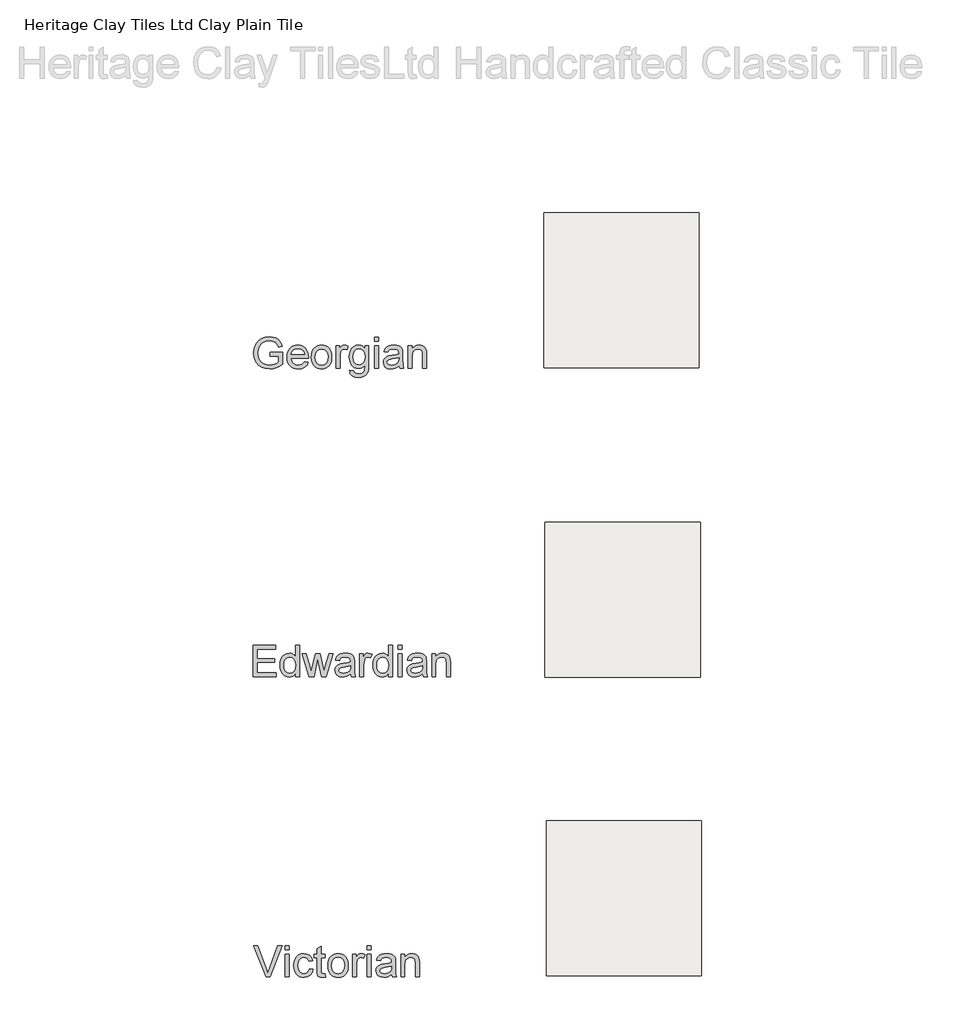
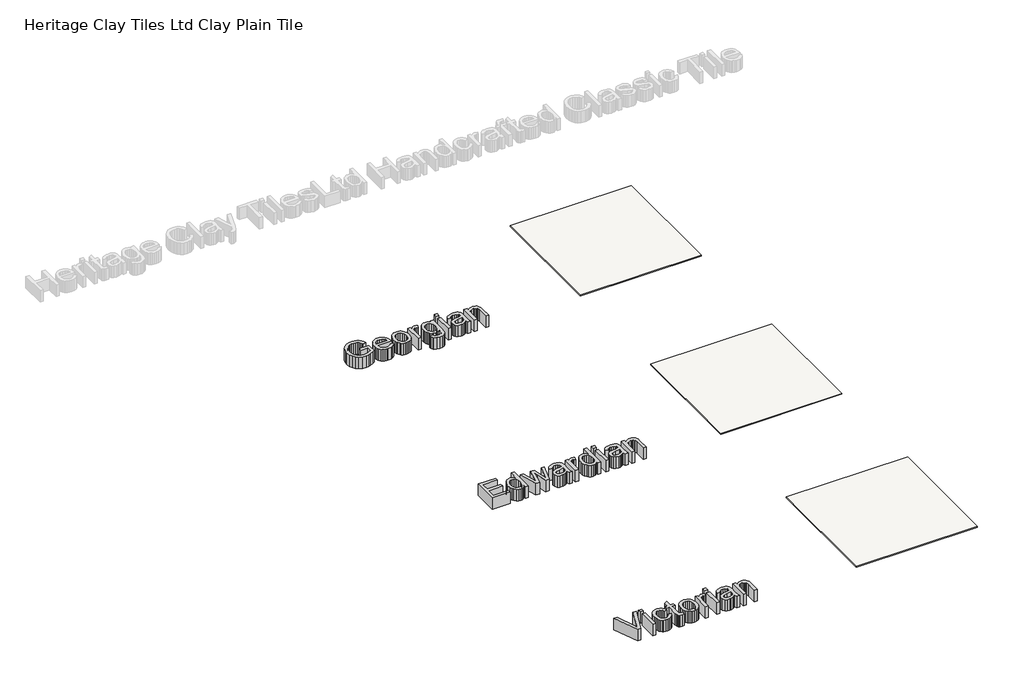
# One storey, part 1 of 3: 3 coverings, 3 proxies.
"""IFC4 building model written with IfcOpenShell, lengths in millimetres."""

from ifc_helpers import new_model, si_unit, frame, origin, place, context, project, spatial, polyline, outline, extrude, element, save

model = new_model("IFC4")

# Units and contexts
model_context = context("Model", 3, world=origin())
ifc_project = project(units=[si_unit("LENGTHUNIT", "METRE", prefix="MILLI")], contexts=[model_context])

# Site, building, storey
site = spatial("IfcSite", under=ifc_project)
building = spatial("IfcBuilding", under=site)
storey = spatial("IfcBuildingStorey", under=building, Name="Heritage Clay Tiles Ltd Clay Plain Tile", Elevation=3000.0)

# Proxies
placement = place(None, origin())
element("IfcBuildingElementProxy", 1, Name="600mm Arial", ObjectType="600mm Arial", at=placement, inside=storey, context=model_context, shape_type="SweptSolid", body=[
    extrude(outline(polyline([(-13653.5462079, -692.2859032), (-13653.5462079, -390.9169728), (-13436.9372892, -390.9169728), (-13436.9372892, -428.5880891), (-13615.8750916, -428.5880891), (-13615.8750916, -518.0569903), (-13446.3550683, -518.0569903), (-13446.3550683, -555.7281066), (-13615.8750916, -555.7281066), (-13615.8750916, -654.6147869), (-13432.2283996, -654.6147869), (-13432.2283996, -692.2859032), (-13653.5462079, -692.2859032)])), frame((0.0, 0.0, 3000.0), z_axis=(0.0, 0.0, 1.0), x_axis=(1.0, 0.0, 0.0)), (0.0, 0.0, 1.0), 150.0),
    extrude(outline(polyline([(-13243.8728181, -692.2859032), (-13243.8728181, -656.7485025), (-13255.1438027, -674.3562545), (-13268.7968233, -686.9332202), (-13284.8318798, -694.4793996), (-13303.2489721, -696.9947927), (-13327.6027602, -693.352761), (-13349.8964091, -682.4266657), (-13368.7687555, -664.9798621), (-13382.8586359, -641.7757053), (-13391.6326215, -613.7522943), (-13394.5572833, -581.8477283), (-13391.8625477, -550.3386354), (-13383.7783409, -521.882963), (-13370.3138599, -498.099392), (-13351.4783017, -480.6066032), (-13328.6972092, -469.8460548), (-13303.3961249, -466.2592054), (-13284.965237, -468.8251823), (-13268.6680646, -476.523113), (-13254.8540957, -488.322928), (-13243.8728181, -503.1945577), (-13243.8728181, -390.9169728), (-13206.2017018, -390.9169728), (-13206.2017018, -692.2859032), (-13243.8728181, -692.2859032)]), holes=[polyline([(-13356.886167, -581.7005755), (-13352.63713, -615.7756453), (-13339.8900189, -640.0098717), (-13321.3671604, -654.4952252), (-13299.7908814, -659.3236764), (-13278.2237994, -654.7159544), (-13260.1699905, -640.8927885), (-13247.9471112, -617.5966611), (-13243.8728181, -584.570055), (-13248.0206876, -548.4624372), (-13260.4642961, -523.4280674), (-13278.9779575, -508.8047581), (-13301.3359858, -503.9303217), (-13323.132994, -508.6116201), (-13340.9936648, -522.6555152), (-13352.9130415, -546.7793771), (-13356.886167, -581.7005755)])]), frame((0.0, 0.0, 3000.0), z_axis=(0.0, 0.0, 1.0), x_axis=(1.0, 0.0, 0.0)), (0.0, 0.0, 1.0), 150.0),
    extrude(outline(polyline([(-13112.9804042, -692.2859032), (-13180.3028093, -470.9680949), (-13141.1601651, -470.9680949), (-13102.974014, -600.0946752), (-13091.5696721, -646.2270774), (-13082.2254694, -601.7869324), (-13051.8384166, -470.9680949), (-13006.9568132, -470.9680949), (-12976.7169132, -601.4190504), (-12968.4027801, -641.6653407), (-12956.4834035, -599.2117584), (-12918.223676, -470.9680949), (-12878.9338789, -470.9680949), (-12946.7713188, -692.2859032), (-12992.3151098, -692.2859032), (-13021.2306346, -562.4971353), (-13029.6183441, -522.0301158), (-13066.9215784, -692.2859032), (-13112.9804042, -692.2859032)])), frame((0.0, 0.0, 3000.0), z_axis=(0.0, 0.0, 1.0), x_axis=(1.0, 0.0, 0.0)), (0.0, 0.0, 1.0), 150.0),
    extrude(outline(polyline([(-12711.7683003, -664.032566), (-12729.7669269, -679.4652157), (-12748.2989824, -689.5635764), (-12767.7875311, -695.1369887), (-12788.6556373, -696.9947927), (-12820.137139, -692.5250265), (-12843.35969, -679.1157278), (-12857.6794966, -658.7534593), (-12862.4527655, -633.424784), (-12860.6501437, -617.8081933), (-12855.2422784, -603.6263424), (-12846.9005542, -591.4862365), (-12836.2963557, -581.994881), (-12809.9192166, -569.634046), (-12777.3248718, -563.9686633), (-12738.8076269, -558.008975), (-12711.9890295, -551.0192171), (-12711.7683003, -542.6315076), (-12714.3618684, -525.8193004), (-12722.1425726, -514.8196287), (-12739.5433909, -506.6526484), (-12763.7868144, -503.9303217), (-12786.2276161, -505.7421405), (-12801.8993891, -511.177597), (-12812.5863611, -521.2299725), (-12820.0727597, -536.8925484), (-12857.743876, -532.1836589), (-12851.2047735, -511.5822672), (-12841.4467036, -495.3954594), (-12827.5591583, -483.0162302), (-12808.6316296, -473.8375745), (-12785.4826551, -468.1537976), (-12758.9307721, -466.2592054), (-12733.464141, -467.9330684), (-12713.2766165, -472.9546577), (-12698.0554989, -480.5054356), (-12687.4880886, -489.7668649), (-12680.4799366, -501.217192), (-12675.936594, -515.3346635), (-12674.097184, -548.2968903), (-12674.097184, -595.1650565), (-12672.1841976, -660.6112634), (-12664.6794049, -692.2859032), (-12702.3505212, -692.2859032), (-12711.7683003, -664.032566)]), holes=[polyline([(-12711.7683003, -588.6903334), (-12772.5424059, -600.241828), (-12804.9528097, -606.3486691), (-12819.6313013, -616.281483), (-12824.7816492, -630.7760336), (-12821.976549, -641.9780404), (-12813.5612484, -651.1566961), (-12799.7196883, -657.2819314), (-12780.6358098, -659.3236764), (-12760.4023001, -657.0703992), (-12742.5232351, -650.3105676), (-12728.0286845, -640.3501625), (-12717.9487178, -628.4951652), (-12713.4789516, -616.281483), (-12711.9890295, -599.3589112), (-12711.7683003, -588.6903334)])]), frame((0.0, 0.0, 3000.0), z_axis=(0.0, 0.0, 1.0), x_axis=(1.0, 0.0, 0.0)), (0.0, 0.0, 1.0), 150.0),
    extrude(outline(polyline([(-12622.2993991, -692.2859032), (-12622.2993991, -470.9680949), (-12589.3371723, -470.9680949), (-12589.3371723, -503.7095925), (-12577.1602783, -484.7268815), (-12565.9398774, -473.5432689), (-12554.6826884, -468.0802212), (-12542.3954297, -466.2592054), (-12523.633448, -469.1654731), (-12504.5771606, -477.8842764), (-12517.1587248, -511.6558436), (-12530.4024767, -505.8617021), (-12543.6462285, -503.9303217), (-12554.8942205, -505.7881257), (-12564.946596, -511.361538), (-12573.0675911, -520.2274941), (-12578.5214416, -531.9629297), (-12583.1015725, -553.0057798), (-12584.6282828, -575.9616163), (-12584.6282828, -692.2859032), (-12622.2993991, -692.2859032)])), frame((0.0, 0.0, 3000.0), z_axis=(0.0, 0.0, 1.0), x_axis=(1.0, 0.0, 0.0)), (0.0, 0.0, 1.0), 150.0),
    extrude(outline(polyline([(-12344.4749163, -692.2859032), (-12344.4749163, -656.7485025), (-12355.7459009, -674.3562545), (-12369.3989215, -686.9332202), (-12385.4339779, -694.4793996), (-12403.8510703, -696.9947927), (-12428.2048584, -693.352761), (-12450.4985073, -682.4266657), (-12469.3708537, -664.9798621), (-12483.4607341, -641.7757053), (-12492.2347197, -613.7522943), (-12495.1593815, -581.8477283), (-12492.4646459, -550.3386354), (-12484.3804391, -521.882963), (-12470.915958, -498.099392), (-12452.0803999, -480.6066032), (-12429.2993073, -469.8460548), (-12403.9982231, -466.2592054), (-12385.5673352, -468.8251823), (-12369.2701628, -476.523113), (-12355.4561939, -488.322928), (-12344.4749163, -503.1945577), (-12344.4749163, -390.9169728), (-12306.8038, -390.9169728), (-12306.8038, -692.2859032), (-12344.4749163, -692.2859032)]), holes=[polyline([(-12457.4882652, -581.7005755), (-12453.2392282, -615.7756453), (-12440.492117, -640.0098717), (-12421.9692586, -654.4952252), (-12400.3929796, -659.3236764), (-12378.8258976, -654.7159544), (-12360.7720887, -640.8927885), (-12348.5492094, -617.5966611), (-12344.4749163, -584.570055), (-12348.6227858, -548.4624372), (-12361.0663943, -523.4280674), (-12379.5800557, -508.8047581), (-12401.938084, -503.9303217), (-12423.7350922, -508.6116201), (-12441.595763, -522.6555152), (-12453.5151397, -546.7793771), (-12457.4882652, -581.7005755)])]), frame((0.0, 0.0, 3000.0), z_axis=(0.0, 0.0, 1.0), x_axis=(1.0, 0.0, 0.0)), (0.0, 0.0, 1.0), 150.0),
    extrude(outline(polyline([(-12250.2971255, -692.2859032), (-12250.2971255, -470.9680949), (-12212.6260092, -470.9680949), (-12212.6260092, -692.2859032), (-12250.2971255, -692.2859032)])), frame((0.0, 0.0, 3000.0), z_axis=(0.0, 0.0, 1.0), x_axis=(1.0, 0.0, 0.0)), (0.0, 0.0, 1.0), 150.0),
    extrude(outline(polyline([(-12250.2971255, -428.5880891), (-12250.2971255, -390.9169728), (-12212.6260092, -390.9169728), (-12212.6260092, -428.5880891), (-12250.2971255, -428.5880891)])), frame((0.0, 0.0, 3000.0), z_axis=(0.0, 0.0, 1.0), x_axis=(1.0, 0.0, 0.0)), (0.0, 0.0, 1.0), 150.0),
    extrude(outline(polyline([(-12014.8526486, -664.032566), (-12032.8512752, -679.4652157), (-12051.3833308, -689.5635764), (-12070.8718794, -695.1369887), (-12091.7399856, -696.9947927), (-12123.2214874, -692.5250265), (-12146.4440383, -679.1157278), (-12160.763845, -658.7534593), (-12165.5371139, -633.424784), (-12163.7344921, -617.8081933), (-12158.3266267, -603.6263424), (-12149.9849025, -591.4862365), (-12139.380704, -581.994881), (-12113.0035649, -569.634046), (-12080.4092202, -563.9686633), (-12041.8919753, -558.008975), (-12015.0733778, -551.0192171), (-12014.8526486, -542.6315076), (-12017.4462167, -525.8193004), (-12025.2269209, -514.8196287), (-12042.6277393, -506.6526484), (-12066.8711627, -503.9303217), (-12089.3119645, -505.7421405), (-12104.9837374, -511.177597), (-12115.6707094, -521.2299725), (-12123.157108, -536.8925484), (-12160.8282243, -532.1836589), (-12154.2891219, -511.5822672), (-12144.5310519, -495.3954594), (-12130.6435066, -483.0162302), (-12111.715978, -473.8375745), (-12088.5670034, -468.1537976), (-12062.0151204, -466.2592054), (-12036.5484893, -467.9330684), (-12016.3609648, -472.9546577), (-12001.1398473, -480.5054356), (-11990.5724369, -489.7668649), (-11983.5642849, -501.217192), (-11979.0209423, -515.3346635), (-11977.1815323, -548.2968903), (-11977.1815323, -595.1650565), (-11975.2685459, -660.6112634), (-11967.7637532, -692.2859032), (-12005.4348696, -692.2859032), (-12014.8526486, -664.032566)]), holes=[polyline([(-12014.8526486, -588.6903334), (-12075.6267542, -600.241828), (-12108.037158, -606.3486691), (-12122.7156496, -616.281483), (-12127.8659975, -630.7760336), (-12125.0608973, -641.9780404), (-12116.6455967, -651.1566961), (-12102.8040366, -657.2819314), (-12083.7201581, -659.3236764), (-12063.4866484, -657.0703992), (-12045.6075834, -650.3105676), (-12031.1130328, -640.3501625), (-12021.0330661, -628.4951652), (-12016.5632999, -616.281483), (-12015.0733778, -599.3589112), (-12014.8526486, -588.6903334)])]), frame((0.0, 0.0, 3000.0), z_axis=(0.0, 0.0, 1.0), x_axis=(1.0, 0.0, 0.0)), (0.0, 0.0, 1.0), 150.0),
    extrude(outline(polyline([(-11925.3837474, -692.2859032), (-11925.3837474, -470.9680949), (-11887.7126311, -470.9680949), (-11887.7126311, -501.8701825), (-11874.6252291, -486.29038), (-11858.9074709, -475.1619497), (-11840.5593564, -468.4848914), (-11819.5808856, -466.2592054), (-11801.0120419, -468.0526301), (-11784.0066967, -473.4329043), (-11769.8248457, -481.7286433), (-11759.726485, -492.2684624), (-11748.4325077, -519.9699767), (-11746.4459449, -556.3902942), (-11746.4459449, -692.2859032), (-11784.1170613, -692.2859032), (-11784.1170613, -561.4670657), (-11788.4580688, -528.136957), (-11794.4637424, -518.2133401), (-11803.798748, -510.5154094), (-11815.7641099, -505.5765936), (-11829.6608523, -503.9303217), (-11851.7245749, -507.6275357), (-11870.5325419, -518.7191779), (-11878.0488309, -527.7736735), (-11883.4176088, -540.1483041), (-11887.7126311, -574.8579703), (-11887.7126311, -692.2859032), (-11925.3837474, -692.2859032)])), frame((0.0, 0.0, 3000.0), z_axis=(0.0, 0.0, 1.0), x_axis=(1.0, 0.0, 0.0)), (0.0, 0.0, 1.0), 150.0),
])
element("IfcBuildingElementProxy", 2, Name="600mm Arial", ObjectType="600mm Arial", at=placement, inside=storey, context=model_context, shape_type="SweptSolid", body=[
    extrude(outline(polyline([(-13529.7897407, -3597.4153802), (-13649.7192711, -3296.0464497), (-13609.3994045, -3296.0464497), (-13529.1275531, -3513.1704033), (-13512.8671689, -3562.0987086), (-13496.8275139, -3513.1704033), (-13416.3349334, -3296.0464497), (-13376.0150667, -3296.0464497), (-13490.8678256, -3597.4153802), (-13529.7897407, -3597.4153802)])), frame((0.0, 0.0, 3000.0), z_axis=(0.0, 0.0, 1.0), x_axis=(1.0, 0.0, 0.0)), (0.0, 0.0, 1.0), 150.0),
    extrude(outline(polyline([(-13345.7015903, -3597.4153802), (-13345.7015903, -3376.0975719), (-13308.030474, -3376.0975719), (-13308.030474, -3597.4153802), (-13345.7015903, -3597.4153802)])), frame((0.0, 0.0, 3000.0), z_axis=(0.0, 0.0, 1.0), x_axis=(1.0, 0.0, 0.0)), (0.0, 0.0, 1.0), 150.0),
    extrude(outline(polyline([(-13345.7015903, -3333.717566), (-13345.7015903, -3296.0464497), (-13308.030474, -3296.0464497), (-13308.030474, -3333.717566), (-13345.7015903, -3333.717566)])), frame((0.0, 0.0, 3000.0), z_axis=(0.0, 0.0, 1.0), x_axis=(1.0, 0.0, 0.0)), (0.0, 0.0, 1.0), 150.0),
    extrude(outline(polyline([(-13110.2571134, -3517.364258), (-13072.5859971, -3522.0731476), (-13083.0890281, -3555.5780003), (-13102.8258971, -3580.8974786), (-13129.9388001, -3596.8175719), (-13162.5699331, -3602.1242697), (-13183.697856, -3600.2733634), (-13202.6414794, -3594.7206446), (-13219.4008036, -3585.4661131), (-13233.9758284, -3572.5097691), (-13245.7733441, -3556.0953343), (-13254.2001411, -3536.4665306), (-13259.2562192, -3513.623358), (-13260.9415786, -3487.5658164), (-13258.062902, -3454.0425696), (-13249.4268722, -3424.989089), (-13234.8955334, -3401.5274148), (-13214.3309298, -3384.779587), (-13189.7288214, -3374.7364085), (-13163.0849679, -3371.3886823), (-13131.2539783, -3375.9872073), (-13105.8057413, -3389.7827821), (-13087.5495973, -3412.0396428), (-13077.2948866, -3442.0220254), (-13114.9660029, -3446.730915), (-13121.799411, -3430.2957868), (-13132.4403977, -3418.5143659), (-13146.3003519, -3411.4234405), (-13162.7906623, -3409.0597987), (-13187.1352533, -3413.7135059), (-13206.4582551, -3427.6746276), (-13219.0674105, -3451.6973219), (-13223.2704623, -3486.5357468), (-13219.159381, -3521.8432213), (-13206.8261371, -3545.9486891), (-13187.8526232, -3559.8270373), (-13163.8207319, -3564.4531534), (-13144.3137891, -3561.5652798), (-13128.3201194, -3552.9016588), (-13116.6858513, -3538.2415613), (-13110.2571134, -3517.364258)])), frame((0.0, 0.0, 3000.0), z_axis=(0.0, 0.0, 1.0), x_axis=(1.0, 0.0, 0.0)), (0.0, 0.0, 1.0), 150.0),
    extrude(outline(polyline([(-12959.5726482, -3565.9982578), (-12954.8637586, -3598.5190262), (-12983.0435195, -3602.1242697), (-13001.1249195, -3600.5607712), (-13014.6077947, -3595.8702758), (-13024.1359383, -3588.6413946), (-13030.3531441, -3579.4627388), (-13033.7744466, -3563.6989953), (-13034.9148808, -3536.714851), (-13034.9148808, -3413.7686882), (-13063.168218, -3413.7686882), (-13063.168218, -3376.0975719), (-13034.9148808, -3376.0975719), (-13034.9148808, -3322.3132242), (-12997.2437645, -3300.1667281), (-12997.2437645, -3376.0975719), (-12959.5726482, -3376.0975719), (-12959.5726482, -3413.7686882), (-12997.2437645, -3413.7686882), (-12997.2437645, -3535.611205), (-12995.2572017, -3555.0353743), (-12988.8192668, -3561.9147676), (-12975.9801852, -3564.4531534), (-12959.5726482, -3565.9982578)])), frame((0.0, 0.0, 3000.0), z_axis=(0.0, 0.0, 1.0), x_axis=(1.0, 0.0, 0.0)), (0.0, 0.0, 1.0), 150.0),
    extrude(outline(polyline([(-12931.319311, -3486.756476), (-12929.2821644, -3458.0938701), (-12923.1707248, -3433.3951926), (-12912.984992, -3412.6604437), (-12898.7249662, -3395.8896232), (-12884.3683713, -3385.1704616), (-12868.5218544, -3377.5139176), (-12851.1854154, -3372.9199911), (-12832.3590543, -3371.3886823), (-12811.5760208, -3373.2533842), (-12792.7841486, -3378.8474898), (-12775.9834378, -3388.1709991), (-12761.1738882, -3401.2239122), (-12749.0866654, -3417.5647705), (-12740.4529348, -3436.7521158), (-12735.2726965, -3458.7859481), (-12733.5459503, -3483.6662673), (-12736.5993709, -3521.7236597), (-12745.7596326, -3550.6943668), (-12760.7600209, -3572.3902075), (-12781.3338215, -3588.6230005), (-12805.770383, -3598.7489524), (-12832.3590543, -3602.1242697), (-12853.4455904, -3600.2664656), (-12872.4122065, -3594.6930534), (-12889.2589026, -3585.404033), (-12903.9856787, -3572.3994045), (-12915.9441428, -3555.899897), (-12924.4859029, -3536.1262398), (-12929.6109589, -3513.0784328), (-12931.319311, -3486.756476)]), holes=[polyline([(-12893.6481946, -3486.6828996), (-12889.288793, -3520.7763635), (-12876.2105881, -3545.0657723), (-12856.5289013, -3559.6063081), (-12832.3590543, -3564.4531534), (-12808.2995718, -3559.578717), (-12788.6546732, -3544.9554077), (-12775.5764683, -3520.3441022), (-12771.2170667, -3485.5056772), (-12775.6040594, -3452.4054947), (-12788.7650378, -3428.4471798), (-12808.4375275, -3413.9066439), (-12832.3590543, -3409.0597987), (-12856.5289013, -3413.8882498), (-12876.2105881, -3428.3736034), (-12889.288793, -3452.6078298), (-12893.6481946, -3486.6828996)])]), frame((0.0, 0.0, 3000.0), z_axis=(0.0, 0.0, 1.0), x_axis=(1.0, 0.0, 0.0)), (0.0, 0.0, 1.0), 150.0),
    extrude(outline(polyline([(-12691.1659445, -3597.4153802), (-12691.1659445, -3376.0975719), (-12658.2037177, -3376.0975719), (-12658.2037177, -3408.8390695), (-12646.0268237, -3389.8563585), (-12634.8064228, -3378.6727458), (-12623.5492338, -3373.2096982), (-12611.2619751, -3371.3886823), (-12592.4999934, -3374.2949501), (-12573.443706, -3383.0137534), (-12586.0252703, -3416.7853205), (-12599.2690221, -3410.9911791), (-12612.5127739, -3409.0597987), (-12623.7607659, -3410.9176027), (-12633.8131415, -3416.491015), (-12641.9341365, -3425.356971), (-12647.3879871, -3437.0924067), (-12651.9681179, -3458.1352568), (-12653.4948282, -3481.0910933), (-12653.4948282, -3597.4153802), (-12691.1659445, -3597.4153802)])), frame((0.0, 0.0, 3000.0), z_axis=(0.0, 0.0, 1.0), x_axis=(1.0, 0.0, 0.0)), (0.0, 0.0, 1.0), 150.0),
    extrude(outline(polyline([(-12549.8992584, -3333.717566), (-12549.8992584, -3296.0464497), (-12512.228142, -3296.0464497), (-12512.228142, -3333.717566), (-12549.8992584, -3333.717566)])), frame((0.0, 0.0, 3000.0), z_axis=(0.0, 0.0, 1.0), x_axis=(1.0, 0.0, 0.0)), (0.0, 0.0, 1.0), 150.0),
    extrude(outline(polyline([(-12549.8992584, -3597.4153802), (-12549.8992584, -3376.0975719), (-12512.228142, -3376.0975719), (-12512.228142, -3597.4153802), (-12549.8992584, -3597.4153802)])), frame((0.0, 0.0, 3000.0), z_axis=(0.0, 0.0, 1.0), x_axis=(1.0, 0.0, 0.0)), (0.0, 0.0, 1.0), 150.0),
    extrude(outline(polyline([(-12314.4547814, -3569.162043), (-12332.4534081, -3584.5946926), (-12350.9854636, -3594.6930534), (-12370.4740123, -3600.2664656), (-12391.3421184, -3602.1242697), (-12422.8236202, -3597.6545035), (-12446.0461711, -3584.2452048), (-12460.3659778, -3563.8829363), (-12465.1392467, -3538.554261), (-12463.3366249, -3522.9376703), (-12457.9287596, -3508.7558193), (-12449.5870353, -3496.6157135), (-12438.9828368, -3487.124358), (-12412.6056978, -3474.763523), (-12380.011353, -3469.0981403), (-12341.4941081, -3463.1384519), (-12314.6755106, -3456.148694), (-12314.4547814, -3447.7609845), (-12317.0483495, -3430.9487774), (-12324.8290537, -3419.9491057), (-12342.2298721, -3411.7821254), (-12366.4732956, -3409.0597987), (-12388.9140973, -3410.8716175), (-12404.5858703, -3416.307074), (-12415.2728422, -3426.3594495), (-12422.7592408, -3442.0220254), (-12460.4303571, -3437.3131359), (-12453.8912547, -3416.7117442), (-12444.1331847, -3400.5249364), (-12430.2456394, -3388.1457072), (-12411.3181108, -3378.9670514), (-12388.1691362, -3373.2832746), (-12361.6172532, -3371.3886823), (-12336.1506221, -3373.0625454), (-12315.9630976, -3378.0841347), (-12300.7419801, -3385.6349126), (-12290.1745698, -3394.8963418), (-12283.1664178, -3406.3466689), (-12278.6230751, -3420.4641405), (-12276.7836651, -3453.4263673), (-12276.7836651, -3500.2945335), (-12274.8706788, -3565.7407404), (-12267.3658861, -3597.4153802), (-12305.0370024, -3597.4153802), (-12314.4547814, -3569.162043)]), holes=[polyline([(-12314.4547814, -3493.8198103), (-12375.228887, -3505.371305), (-12407.6392908, -3511.4781461), (-12422.3177824, -3521.41096), (-12427.4681304, -3535.9055106), (-12424.6630301, -3547.1075173), (-12416.2477295, -3556.2861731), (-12402.4061694, -3562.4114083), (-12383.3222909, -3564.4531534), (-12363.0887812, -3562.1998762), (-12345.2097162, -3555.4400445), (-12330.7151656, -3545.4796395), (-12320.635199, -3533.6246422), (-12316.1654327, -3521.41096), (-12314.6755106, -3504.4883882), (-12314.4547814, -3493.8198103)])]), frame((0.0, 0.0, 3000.0), z_axis=(0.0, 0.0, 1.0), x_axis=(1.0, 0.0, 0.0)), (0.0, 0.0, 1.0), 150.0),
    extrude(outline(polyline([(-12224.9858802, -3597.4153802), (-12224.9858802, -3376.0975719), (-12187.3147639, -3376.0975719), (-12187.3147639, -3406.9996595), (-12174.2273619, -3391.419857), (-12158.5096037, -3380.2914266), (-12140.1614892, -3373.6143684), (-12119.1830184, -3371.3886823), (-12100.6141747, -3373.1821071), (-12083.6088295, -3378.5623813), (-12069.4269786, -3386.8581202), (-12059.3286178, -3397.3979394), (-12048.0346405, -3425.0994536), (-12046.0480778, -3461.5197712), (-12046.0480778, -3597.4153802), (-12083.7191941, -3597.4153802), (-12083.7191941, -3466.5965427), (-12088.0602016, -3433.2664339), (-12094.0658752, -3423.3428171), (-12103.4008808, -3415.6448864), (-12115.3662427, -3410.7060706), (-12129.2629851, -3409.0597987), (-12151.3267077, -3412.7570127), (-12170.1346747, -3423.8486549), (-12177.6509637, -3432.9031505), (-12183.0197416, -3445.2777811), (-12187.3147639, -3479.9874473), (-12187.3147639, -3597.4153802), (-12224.9858802, -3597.4153802)])), frame((0.0, 0.0, 3000.0), z_axis=(0.0, 0.0, 1.0), x_axis=(1.0, 0.0, 0.0)), (0.0, 0.0, 1.0), 150.0),
])
element("IfcBuildingElementProxy", 3, Name="600mm Arial", ObjectType="600mm Arial", at=placement, inside=storey, context=model_context, shape_type="SweptSolid", body=[
    extrude(outline(polyline([(-13491.8591379, 2404.9886785), (-13491.8591379, 2442.6597948), (-13369.4280099, 2442.6597948), (-13369.4280099, 2330.0143279), (-13399.1804663, 2309.3209657), (-13429.8710217, 2294.4769272), (-13461.4260998, 2285.5373947), (-13493.7721243, 2282.5575505), (-13536.0325685, 2287.2940312), (-13574.2279166, 2301.5034733), (-13605.9577387, 2324.689236), (-13628.8216047, 2356.3546787), (-13642.6447707, 2394.3384947), (-13647.2524927, 2436.4793773), (-13642.6631648, 2478.9237625), (-13628.8951811, 2518.4066976), (-13606.5187587, 2551.5252742), (-13576.1041148, 2574.8765839), (-13539.0583979, 2588.727341), (-13496.7887566, 2593.34426), (-13465.7579103, 2590.6679185), (-13437.854061, 2582.638894), (-13414.3555986, 2569.8366005), (-13396.5409129, 2552.8404524), (-13383.3615405, 2530.831912), (-13373.7690174, 2502.992442), (-13408.4970778, 2493.2067809), (-13416.2501908, 2513.0632116), (-13425.677167, 2528.0452059), (-13438.1483666, 2539.3391831), (-13455.0341502, 2548.1315628), (-13475.1664924, 2553.7877485), (-13497.3773678, 2555.6731437), (-13523.3774278, 2553.6405957), (-13545.6066974, 2547.5429516), (-13563.982403, 2538.1435667), (-13578.4217714, 2526.2057959), (-13597.8091525, 2497.1799065), (-13606.6383204, 2468.7426283), (-13609.5813763, 2438.0244817), (-13606.0405121, 2401.9996373), (-13595.4179195, 2372.3575455), (-13578.0354953, 2349.3097385), (-13554.2151361, 2333.0677484), (-13526.3388779, 2323.4384372), (-13496.7887566, 2320.2286668), (-13470.6967261, 2322.6474909), (-13445.2484891, 2329.9039633), (-13423.1479782, 2339.9011565), (-13407.0991262, 2350.5421432), (-13407.0991262, 2404.9886785), (-13491.8591379, 2404.9886785)])), frame((0.0, 0.0, 3000.0), z_axis=(0.0, 0.0, 1.0), x_axis=(1.0, 0.0, 0.0)), (0.0, 0.0, 1.0), 150.0),
    extrude(outline(polyline([(-13157.9694391, 2353.1908936), (-13121.0340868, 2348.482004), (-13134.3422179, 2320.6517311), (-13155.5782061, 2299.8480043), (-13184.2638047, 2286.880164), (-13219.9207671, 2282.5575505), (-13243.2950693, 2284.4222524), (-13264.1217888, 2290.016358), (-13282.4009254, 2299.3398673), (-13298.1324792, 2312.3927803), (-13310.7830213, 2328.8118136), (-13319.8191228, 2348.2336837), (-13325.2407837, 2370.6583906), (-13327.0480041, 2396.0859342), (-13325.2223896, 2422.3757013), (-13319.7455464, 2445.5476685), (-13310.6174744, 2465.6018357), (-13297.8381736, 2482.5382031), (-13282.1480065, 2495.9934871), (-13264.2873357, 2505.6044042), (-13244.256161, 2511.3709545), (-13222.0544826, 2513.2931379), (-13200.5678748, 2511.375553), (-13181.1368077, 2505.6227983), (-13163.7612812, 2496.0348738), (-13148.4412954, 2482.6117795), (-13135.9356068, 2465.7122003), (-13127.0029721, 2445.6948213), (-13121.6433913, 2422.5596423), (-13119.8568644, 2396.3066634), (-13120.0775936, 2386.1531203), (-13289.3768877, 2386.1531203), (-13282.8561794, 2357.9549654), (-13267.7086382, 2337.224815), (-13245.8472507, 2324.4777039), (-13219.1850031, 2320.2286668), (-13199.1354343, 2322.1968355), (-13182.2496507, 2328.1013415), (-13168.5276523, 2338.3100669), (-13157.9694391, 2353.1908936)]), holes=[polyline([(-13289.3768877, 2423.8242367), (-13157.5279807, 2423.8242367), (-13162.6231463, 2443.7266526), (-13172.6111425, 2457.9636858), (-13194.5736976, 2471.2074376), (-13222.2016354, 2475.6220216), (-13247.5946901, 2472.0995515), (-13268.591555, 2461.5321412), (-13283.1872732, 2445.0602248), (-13289.3768877, 2423.8242367)])]), frame((0.0, 0.0, 3000.0), z_axis=(0.0, 0.0, 1.0), x_axis=(1.0, 0.0, 0.0)), (0.0, 0.0, 1.0), 150.0),
    extrude(outline(polyline([(-13091.6035271, 2397.9253442), (-13089.5663806, 2426.5879501), (-13083.4549409, 2451.2866276), (-13073.2692082, 2472.0213765), (-13059.0091824, 2488.792197), (-13044.6525875, 2499.5113586), (-13028.8060706, 2507.1679027), (-13011.4696315, 2511.7618291), (-12992.6432704, 2513.2931379), (-12971.860237, 2511.428436), (-12953.0683648, 2505.8343304), (-12936.2676539, 2496.5108211), (-12921.4581044, 2483.4579081), (-12909.3708816, 2467.1170497), (-12900.737151, 2447.9297044), (-12895.5569126, 2425.8958721), (-12893.8301665, 2401.015553), (-12896.8835871, 2362.9581606), (-12906.0438488, 2333.9874534), (-12921.0442371, 2312.2916128), (-12941.6180377, 2296.0588197), (-12966.0545992, 2285.9328678), (-12992.6432704, 2282.5575505), (-13013.7298065, 2284.4153546), (-13032.6964227, 2289.9887668), (-13049.5431188, 2299.2777872), (-13064.2698949, 2312.2824157), (-13076.228359, 2328.7819232), (-13084.7701191, 2348.5555804), (-13089.8951751, 2371.6033874), (-13091.6035271, 2397.9253442)]), holes=[polyline([(-13053.9324108, 2397.9989206), (-13049.5730092, 2363.9054567), (-13036.4948043, 2339.616048), (-13016.8131175, 2325.0755121), (-12992.6432704, 2320.2286668), (-12968.5837879, 2325.1031032), (-12948.9388894, 2339.7264126), (-12935.8606845, 2364.337718), (-12931.5012828, 2399.176143), (-12935.8882756, 2432.2763255), (-12949.049254, 2456.2346404), (-12968.7217437, 2470.7751763), (-12992.6432704, 2475.6220216), (-13016.8131175, 2470.7935704), (-13036.4948043, 2456.3082168), (-13049.5730092, 2432.0739904), (-13053.9324108, 2397.9989206)])]), frame((0.0, 0.0, 3000.0), z_axis=(0.0, 0.0, 1.0), x_axis=(1.0, 0.0, 0.0)), (0.0, 0.0, 1.0), 150.0),
    extrude(outline(polyline([(-12851.4501607, 2287.26644), (-12851.4501607, 2508.5842483), (-12818.4879339, 2508.5842483), (-12818.4879339, 2475.8427508), (-12806.3110399, 2494.8254617), (-12795.090639, 2506.0090744), (-12783.83345, 2511.472122), (-12771.5461913, 2513.2931379), (-12752.7842096, 2510.3868701), (-12733.7279222, 2501.6680668), (-12746.3094865, 2467.8964997), (-12759.5532383, 2473.6906411), (-12772.7969901, 2475.6220216), (-12784.0449821, 2473.7642175), (-12794.0973576, 2468.1908053), (-12802.2183527, 2459.3248492), (-12807.6722033, 2447.5894135), (-12812.2523341, 2426.5465634), (-12813.7790444, 2403.5907269), (-12813.7790444, 2287.26644), (-12851.4501607, 2287.26644)])), frame((0.0, 0.0, 3000.0), z_axis=(0.0, 0.0, 1.0), x_axis=(1.0, 0.0, 0.0)), (0.0, 0.0, 1.0), 150.0),
    extrude(outline(polyline([(-12719.6012536, 2268.4308819), (-12681.9301373, 2263.7219924), (-12677.7730708, 2251.9497685), (-12669.7164551, 2243.8563646), (-12653.8791352, 2237.5655825), (-12633.1489847, 2235.4686551), (-12611.0392768, 2237.841494), (-12594.5949517, 2244.9600106), (-12583.1906098, 2256.3643525), (-12576.2008519, 2271.5946671), (-12573.6256779, 2315.5197773), (-12586.1612569, 2303.1589422), (-12600.1499698, 2294.3297744), (-12615.5918165, 2289.0322736), (-12632.4867972, 2287.26644), (-12653.1410719, 2289.3219807), (-12671.3259388, 2295.4886026), (-12687.0413978, 2305.7663059), (-12700.2874489, 2320.1550904), (-12710.7973776, 2337.417953), (-12718.3044696, 2356.3178905), (-12722.8087248, 2376.8549029), (-12724.3101432, 2399.0289902), (-12721.6154075, 2429.4436341), (-12713.5312007, 2457.4118628), (-12700.3426312, 2481.1126604), (-12682.3348075, 2498.7250109), (-12660.123932, 2509.6511061), (-12634.3262071, 2513.2931379), (-12616.7092581, 2511.2329987), (-12600.7201869, 2505.0525812), (-12586.3589935, 2494.7518853), (-12573.6256779, 2480.3309111), (-12573.6256779, 2508.5842483), (-12535.9545616, 2508.5842483), (-12535.9545616, 2317.50634), (-12538.5297356, 2273.3880918), (-12546.2552575, 2244.3346112), (-12559.5633887, 2225.0667917), (-12578.8863905, 2210.3055267), (-12603.8011986, 2200.9245358), (-12633.8847487, 2197.7975388), (-12668.9347058, 2202.2029257), (-12696.5350525, 2215.4190864), (-12706.9300181, 2225.3404039), (-12714.2393735, 2237.482809), (-12718.4631187, 2251.8463017), (-12719.6012536, 2268.4308819)]), holes=[polyline([(-12686.6390268, 2401.6041641), (-12682.619916, 2367.0508477), (-12670.5625837, 2343.2948679), (-12652.4351983, 2329.5268842), (-12630.2059288, 2324.9375564), (-12608.1422061, 2329.4992931), (-12589.9228503, 2343.1845033), (-12577.699971, 2366.6369805), (-12573.6256779, 2400.5005182), (-12577.8195327, 2433.1592423), (-12590.4010969, 2456.6760988), (-12608.8871672, 2470.8855409), (-12630.79454, 2475.6220216), (-12652.3064396, 2470.9591173), (-12670.3418545, 2456.9704044), (-12682.5647337, 2433.8030358), (-12686.6390268, 2401.6041641)])]), frame((0.0, 0.0, 3000.0), z_axis=(0.0, 0.0, 1.0), x_axis=(1.0, 0.0, 0.0)), (0.0, 0.0, 1.0), 150.0),
    extrude(outline(polyline([(-12479.4478872, 2550.9642542), (-12479.4478872, 2588.6353705), (-12441.7767709, 2588.6353705), (-12441.7767709, 2550.9642542), (-12479.4478872, 2550.9642542)])), frame((0.0, 0.0, 3000.0), z_axis=(0.0, 0.0, 1.0), x_axis=(1.0, 0.0, 0.0)), (0.0, 0.0, 1.0), 150.0),
    extrude(outline(polyline([(-12479.4478872, 2287.26644), (-12479.4478872, 2508.5842483), (-12441.7767709, 2508.5842483), (-12441.7767709, 2287.26644), (-12479.4478872, 2287.26644)])), frame((0.0, 0.0, 3000.0), z_axis=(0.0, 0.0, 1.0), x_axis=(1.0, 0.0, 0.0)), (0.0, 0.0, 1.0), 150.0),
    extrude(outline(polyline([(-12244.0034102, 2315.5197773), (-12262.0020369, 2300.0871276), (-12280.5340924, 2289.9887668), (-12300.0226411, 2284.4153546), (-12320.8907472, 2282.5575505), (-12352.372249, 2287.0273167), (-12375.5947999, 2300.4366155), (-12389.9146066, 2320.7988839), (-12394.6878755, 2346.1275593), (-12392.8852537, 2361.74415), (-12387.4773884, 2375.9260009), (-12379.1356641, 2388.0661067), (-12368.5314656, 2397.5574622), (-12342.1543266, 2409.9182972), (-12309.5599818, 2415.58368), (-12271.0427369, 2421.5433683), (-12244.2241394, 2428.5331262), (-12244.0034102, 2436.9208357), (-12246.5969783, 2453.7330429), (-12254.3776825, 2464.7327145), (-12271.7785009, 2472.8996948), (-12296.0219244, 2475.6220216), (-12318.4627261, 2473.8102027), (-12334.1344991, 2468.3747463), (-12344.821471, 2458.3223708), (-12352.3078696, 2442.6597948), (-12389.9789859, 2447.3686843), (-12383.4398835, 2467.9700761), (-12373.6818135, 2484.1568839), (-12359.7942682, 2496.536113), (-12340.8667396, 2505.7147688), (-12317.717765, 2511.3985456), (-12291.165882, 2513.2931379), (-12265.6992509, 2511.6192748), (-12245.5117264, 2506.5976856), (-12230.2906089, 2499.0469076), (-12219.7231986, 2489.7854784), (-12212.7150466, 2478.3351513), (-12208.1717039, 2464.2176797), (-12206.3322939, 2431.255453), (-12206.3322939, 2384.3872868), (-12204.4193076, 2318.9410798), (-12196.9145149, 2287.26644), (-12234.5856312, 2287.26644), (-12244.0034102, 2315.5197773)]), holes=[polyline([(-12244.0034102, 2390.8620099), (-12304.7775159, 2379.3105152), (-12337.1879196, 2373.2036741), (-12351.8664112, 2363.2708602), (-12357.0167592, 2348.7763096), (-12354.211659, 2337.5743029), (-12345.7963583, 2328.3956471), (-12331.9547982, 2322.2704119), (-12312.8709197, 2320.2286668), (-12292.63741, 2322.481944), (-12274.758345, 2329.2417757), (-12260.2637944, 2339.2021807), (-12250.1838278, 2351.057178), (-12245.7140615, 2363.2708602), (-12244.2241394, 2380.193432), (-12244.0034102, 2390.8620099)])]), frame((0.0, 0.0, 3000.0), z_axis=(0.0, 0.0, 1.0), x_axis=(1.0, 0.0, 0.0)), (0.0, 0.0, 1.0), 150.0),
    extrude(outline(polyline([(-12154.534509, 2287.26644), (-12154.534509, 2508.5842483), (-12116.8633927, 2508.5842483), (-12116.8633927, 2477.6821607), (-12103.7759907, 2493.2619632), (-12088.0582325, 2504.3903936), (-12069.710118, 2511.0674518), (-12048.7316472, 2513.2931379), (-12030.1628035, 2511.4997132), (-12013.1574583, 2506.119439), (-11998.9756074, 2497.8237), (-11988.8772466, 2487.2838808), (-11977.5832693, 2459.5823666), (-11975.5967066, 2423.1620491), (-11975.5967066, 2287.26644), (-12013.2678229, 2287.26644), (-12013.2678229, 2418.0852775), (-12017.6088304, 2451.4153863), (-12023.614504, 2461.3390031), (-12032.9495096, 2469.0369339), (-12044.9148715, 2473.9757496), (-12058.8116139, 2475.6220216), (-12080.8753365, 2471.9248075), (-12099.6833035, 2460.8331654), (-12107.1995926, 2451.7786698), (-12112.5683704, 2439.4040392), (-12116.8633927, 2404.6943729), (-12116.8633927, 2287.26644), (-12154.534509, 2287.26644)])), frame((0.0, 0.0, 3000.0), z_axis=(0.0, 0.0, 1.0), x_axis=(1.0, 0.0, 0.0)), (0.0, 0.0, 1.0), 150.0),
])

# Coverings
element("IfcCovering", 4, ObjectType="Heritage Tiles - CLassic Edwardian", at=placement, inside=storey, context=model_context, shape_type="SweptSolid", body=[
    extrude(outline(polyline([(-10828.1924603, -700.5742465), (-10828.1924603, 799.4257535), (-9328.1924603, 799.4257535), (-9328.1924603, -700.5742465), (-10828.1924603, -700.5742465)])), frame((0.0, 0.0, 3000.0), z_axis=(0.0, 0.0, 1.0), x_axis=(1.0, 0.0, 0.0)), (0.0, 0.0, 1.0), 12.0),
])
element("IfcCovering", 5, ObjectType="Heritage Tiles - Classic Georgian", at=placement, inside=storey, context=model_context, shape_type="SweptSolid", body=[
    extrude(outline(polyline([(-10842.4184899, 2291.9806915), (-10842.4184899, 3791.9806915), (-9342.4184899, 3791.9806915), (-9342.4184899, 2291.9806915), (-10842.4184899, 2291.9806915)])), frame((0.0, 0.0, 3000.0), z_axis=(0.0, 0.0, 1.0), x_axis=(1.0, 0.0, 0.0)), (0.0, 0.0, 1.0), 13.0),
])
element("IfcCovering", 6, ObjectType="Heritage Tiles - Classic Victorian", at=placement, inside=storey, context=model_context, shape_type="SweptSolid", body=[
    extrude(outline(polyline([(-10814.7423355, -3584.2449721), (-10814.7423355, -2084.2449721), (-9314.7423355, -2084.2449721), (-9314.7423355, -3584.2449721), (-10814.7423355, -3584.2449721)])), frame((0.0, 0.0, 3000.0), z_axis=(0.0, 0.0, 1.0), x_axis=(1.0, 0.0, 0.0)), (0.0, 0.0, 1.0), 12.0),
])

save(model, "model.ifc")
